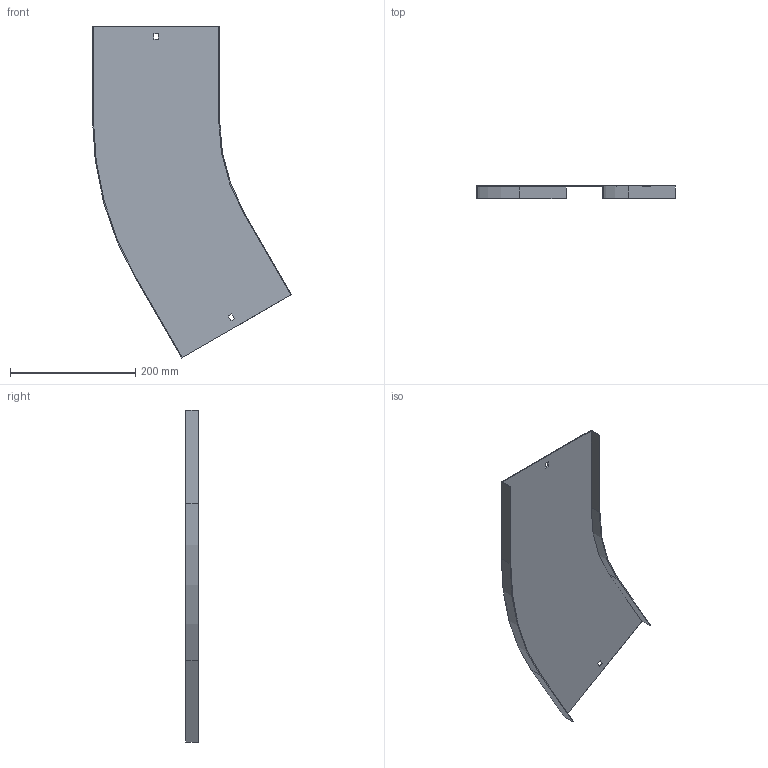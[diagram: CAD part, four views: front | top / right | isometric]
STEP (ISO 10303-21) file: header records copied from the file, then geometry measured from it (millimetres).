
FILE_DESCRIPTION (( 'STEP AP214' ), '1' );
FILE_NAME ('A2_12N3R200.step', '2025-02-21T10:48:48', ( '' ), ( '' ), 'SwSTEP 2.0', 'SolidWorks 2023', '' );
FILE_SCHEMA (( 'AUTOMOTIVE_DESIGN' ));
Length unit declared in the file: millimetre
Products named in the file (1): A2_12N3R200
Bounding box: 317.99 x 20 x 530.65 mm (x, y, z)
Volume: 183222.7 mm3; surface area: 246638.3 mm2
Topology: 1 solids, 1 shells, 26 faces, 72 edges, 48 vertices
Faces by surface type: plane 22, cylinder 4
Entity records: 855 total; most frequent: CARTESIAN_POINT 147, ORIENTED_EDGE 144, DIRECTION 134, EDGE_CURVE 72, LINE 64, VECTOR 64, VERTEX_POINT 48, AXIS2_PLACEMENT_3D 35
